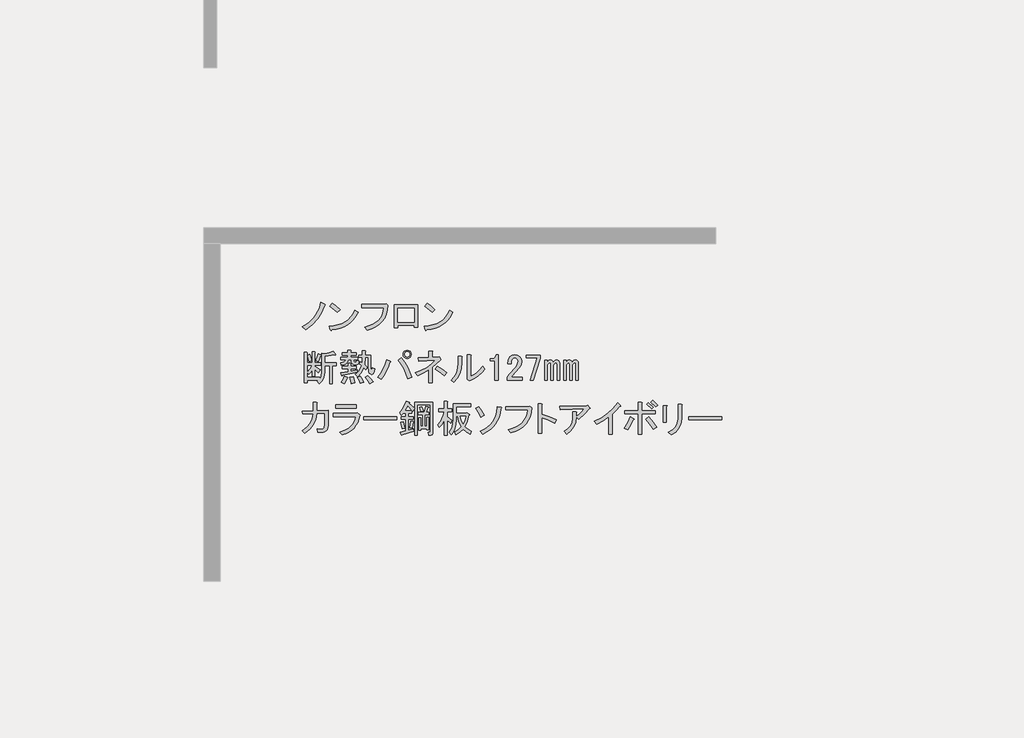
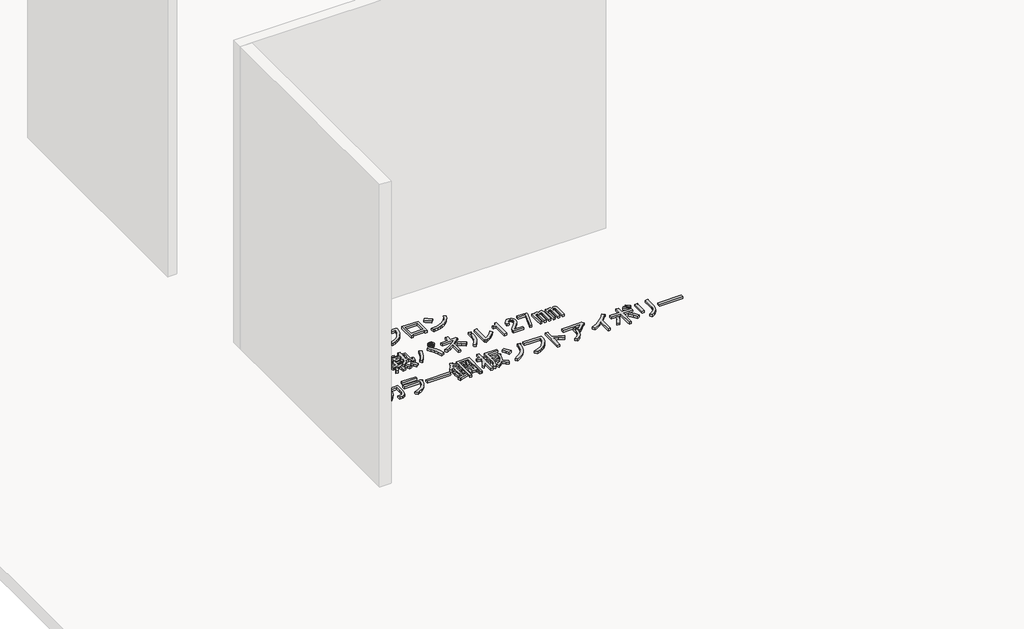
# One storey, part 14 of 117: 1 proxy.
"""IFC4 building model written with IfcOpenShell, lengths in millimetres."""

from ifc_helpers import new_model, si_unit, frame, origin, place, context, project, spatial, polyline, outline, extrude, element, save

model = new_model("IFC4")

# Units and contexts
model_context = context("Model", 3, world=origin())
ifc_project = project(units=[si_unit("LENGTHUNIT", "METRE", prefix="MILLI")], contexts=[model_context])

# Site, building, storey
site = spatial("IfcSite", under=ifc_project)
building = spatial("IfcBuilding", under=site)
storey = spatial("IfcBuildingStorey", under=building, Name="レベル 1", Elevation=500.0)

# Proxy
placement = place(None, origin())
element("IfcBuildingElementProxy", 1, Name="200㎜\u3000MS Pゴシック", ObjectType="200㎜\u3000MS Pゴシック", at=placement, inside=storey, context=model_context, shape_type="SweptSolid", body=[
    extrude(outline(polyline([(-23056.3293015, -8607.0496882), (-23081.9047498, -8666.8215225), (-23110.353844, -8712.7998566), (-23152.0217093, -8758.2034615), (-23201.1610538, -8795.560858), (-23228.7480543, -8773.7211493), (-23181.0455327, -8743.2605029), (-23141.3892195, -8704.7536481), (-23124.0036619, -8680.8305462), (-23108.6296565, -8652.7406577), (-23095.2672031, -8620.4839827), (-23083.9163019, -8584.0605212), (-23052.8809264, -8597.8540214), (-23049.7199159, -8602.4518548), (-23056.3293015, -8607.0496882)])), frame((0.0, 0.0, 500.0), z_axis=(0.0, 0.0, 1.0), x_axis=(1.0, 0.0, 0.0)), (0.0, 0.0, 1.0), 25.0),
    extrude(outline(polyline([(-22956.6022948, -8662.2236891), (-23015.2246708, -8615.0958967), (-22995.6838788, -8590.9572713), (-22968.3842429, -8610.7854279), (-22934.7625862, -8640.3839804), (-22956.6022948, -8662.2236891)])), frame((0.0, 0.0, 500.0), z_axis=(0.0, 0.0, 1.0), x_axis=(1.0, 0.0, 0.0)), (0.0, 0.0, 1.0), 25.0),
    extrude(outline(polyline([(-22794.5286672, -8662.2236891), (-22811.052131, -8691.965924), (-22830.1618761, -8717.9724192), (-22851.8579025, -8740.2431748), (-22876.1402102, -8758.7781907), (-22903.0087992, -8773.577467), (-22932.4636694, -8784.6410036), (-22964.504821, -8791.9688006), (-22999.1322539, -8795.560858), (-23004.8795456, -8803.6070664), (-23010.6268374, -8797.8597747), (-23019.8225042, -8767.9738575), (-22983.9917321, -8765.2977748), (-22951.2142088, -8758.9937141), (-22921.4899342, -8749.0616756), (-22894.8189084, -8735.5016591), (-22871.2011313, -8718.3136646), (-22850.636603, -8697.4976923), (-22833.1253234, -8673.053742), (-22818.6672926, -8644.9818138), (-22794.5286672, -8662.2236891)])), frame((0.0, 0.0, 500.0), z_axis=(0.0, 0.0, 1.0), x_axis=(1.0, 0.0, 0.0)), (0.0, 0.0, 1.0), 25.0),
    extrude(outline(polyline([(-22743.7685864, -8777.1695243), (-22709.985287, -8767.4889298), (-22680.4765359, -8755.1142922), (-22655.242333, -8740.0456116), (-22634.2826783, -8722.282888), (-22617.597572, -8701.8261214), (-22605.1870138, -8678.6753118), (-22597.0510039, -8652.8304591), (-22593.1895423, -8624.2915635), (-22765.6082951, -8624.2915635), (-22765.6082951, -8599.0034798), (-22590.8906256, -8599.0034798), (-22574.7982086, -8595.5551047), (-22562.1541668, -8607.0496882), (-22565.674383, -8643.5449909), (-22573.9361149, -8676.5919185), (-22586.9393625, -8706.1904711), (-22604.6841258, -8732.3406486), (-22627.1704048, -8755.042451), (-22654.3981995, -8774.2958784), (-22686.3675099, -8790.1009308), (-22723.078336, -8802.4576081), (-22743.7685864, -8777.1695243)])), frame((0.0, 0.0, 500.0), z_axis=(0.0, 0.0, 1.0), x_axis=(1.0, 0.0, 0.0)), (0.0, 0.0, 1.0), 25.0),
    extrude(outline(polyline([(-22329.044013, -8776.020066), (-22355.4815551, -8776.020066), (-22355.4815551, -8763.3760241), (-22483.0714321, -8763.3760241), (-22483.0714321, -8781.7673577), (-22509.5089742, -8781.7673577), (-22509.5089742, -8602.4518548), (-22329.044013, -8602.4518548), (-22329.044013, -8776.020066)]), holes=[polyline([(-22483.0714321, -8627.7399386), (-22483.0714321, -8738.0879404), (-22355.4815551, -8738.0879404), (-22355.4815551, -8627.7399386), (-22483.0714321, -8627.7399386)])]), frame((0.0, 0.0, 500.0), z_axis=(0.0, 0.0, 1.0), x_axis=(1.0, 0.0, 0.0)), (0.0, 0.0, 1.0), 25.0),
    extrude(outline(polyline([(-22052.9900951, -8662.2236891), (-22069.5135589, -8691.965924), (-22088.623304, -8717.9724192), (-22110.3193304, -8740.2431748), (-22134.6016381, -8758.7781907), (-22161.4702271, -8773.577467), (-22190.9250974, -8784.6410036), (-22222.9662489, -8791.9688006), (-22257.5936818, -8795.560858), (-22263.3409736, -8803.6070664), (-22269.0882653, -8797.8597747), (-22278.2839321, -8767.9738575), (-22242.4531601, -8765.2977748), (-22209.6756367, -8758.9937141), (-22179.9513622, -8749.0616756), (-22153.2803363, -8735.5016591), (-22129.6625593, -8718.3136646), (-22109.0980309, -8697.4976923), (-22091.5867514, -8673.053742), (-22077.1287205, -8644.9818138), (-22052.9900951, -8662.2236891)])), frame((0.0, 0.0, 500.0), z_axis=(0.0, 0.0, 1.0), x_axis=(1.0, 0.0, 0.0)), (0.0, 0.0, 1.0), 25.0),
    extrude(outline(polyline([(-22215.0637228, -8662.2236891), (-22273.6860987, -8615.0958967), (-22254.1453067, -8590.9572713), (-22226.8456709, -8610.7854279), (-22193.2240141, -8640.3839804), (-22215.0637228, -8662.2236891)])), frame((0.0, 0.0, 500.0), z_axis=(0.0, 0.0, 1.0), x_axis=(1.0, 0.0, 0.0)), (0.0, 0.0, 1.0), 25.0),
    extrude(outline(polyline([(-23122.9978859, -9039.2345221), (-23105.7560106, -8986.3594379), (-23085.0657603, -8992.1067296), (-23083.3415727, -8995.2677401), (-23087.364677, -8997.8540214), (-23104.6065523, -9046.1312722), (-23122.9978859, -9039.2345221)])), frame((0.0, 0.0, 500.0), z_axis=(0.0, 0.0, 1.0), x_axis=(1.0, 0.0, 0.0)), (0.0, 0.0, 1.0), 25.0),
    extrude(outline(polyline([(-22968.9704667, -8990.9572713), (-22970.6946542, -8995.5551047), (-22978.1661335, -8993.256188), (-23055.1798431, -9005.9002299), (-23055.1798431, -9055.326939), (-22963.2231749, -9055.326939), (-22963.2231749, -9077.1666477), (-22994.2585505, -9077.1666477), (-22994.2585505, -9217.4005666), (-23017.2477175, -9217.4005666), (-23017.2477175, -9077.1666477), (-23055.1798431, -9077.1666477), (-23055.1798431, -9126.5933568), (-23057.7661244, -9154.3958807), (-23065.5249683, -9179.1810764), (-23078.4563747, -9200.948944), (-23096.5603438, -9219.6994833), (-23113.8022191, -9200.1586914), (-23103.4570939, -9190.9630245), (-23193.1148454, -9190.9630245), (-23193.1148454, -9212.8027332), (-23216.1040124, -9212.8027332), (-23216.1040124, -8973.715396), (-23194.2643037, -8973.715396), (-23189.3791057, -8976.0143127), (-23193.1148454, -8980.6121461), (-23193.1148454, -9056.4763974), (-23150.5848863, -9056.4763974), (-23150.5848863, -8969.1175626), (-23132.1935527, -8969.1175626), (-23127.3083547, -8971.4164793), (-23131.0440943, -8976.0143127), (-23131.0440943, -9056.4763974), (-23087.364677, -9056.4763974), (-23087.364677, -9074.867731), (-23131.0440943, -9074.867731), (-23131.0440943, -9084.0633978), (-23090.813052, -9110.5009399), (-23104.6065523, -9132.3406486), (-23131.0440943, -9105.9031065), (-23131.0440943, -9158.7781907), (-23150.5848863, -9158.7781907), (-23150.5848863, -9110.5009399), (-23163.8036574, -9130.3290965), (-23178.1718868, -9146.1341488), (-23190.8159287, -9127.7428152), (-23168.97622, -9103.6041898), (-23151.7343447, -9074.867731), (-23193.1148454, -9074.867731), (-23193.1148454, -9169.1233159), (-23095.4108854, -9169.1233159), (-23095.4108854, -9182.9168161), (-23082.479479, -9158.7781907), (-23078.1690102, -9125.4438985), (-23078.1690102, -8980.6121461), (-23056.3293015, -8986.3594379), (-23020.1213634, -8978.8879586), (-22989.660717, -8965.6691875), (-22968.9704667, -8990.9572713)])), frame((0.0, 0.0, 500.0), z_axis=(0.0, 0.0, 1.0), x_axis=(1.0, 0.0, 0.0)), (0.0, 0.0, 1.0), 25.0),
    extrude(outline(polyline([(-23177.0224284, -9047.2807305), (-23189.6664703, -8996.7045631), (-23170.1256783, -8989.8078129), (-23162.3668344, -9013.9464383), (-23157.4816364, -9040.3839804), (-23177.0224284, -9047.2807305)])), frame((0.0, 0.0, 500.0), z_axis=(0.0, 0.0, 1.0), x_axis=(1.0, 0.0, 0.0)), (0.0, 0.0, 1.0), 25.0),
    extrude(outline(polyline([(-22878.1632569, -9167.9738575), (-22874.7148818, -9172.8590555), (-22880.4621736, -9176.020066), (-22890.2325696, -9201.5955143), (-22901.1524239, -9220.8489417), (-22924.141591, -9209.3543582), (-22911.4975491, -9185.790462), (-22901.1524239, -9158.7781907), (-22878.1632569, -9167.9738575)])), frame((0.0, 0.0, 500.0), z_axis=(0.0, 0.0, 1.0), x_axis=(1.0, 0.0, 0.0)), (0.0, 0.0, 1.0), 25.0),
    extrude(outline(polyline([(-22833.3343812, -9163.3760241), (-22823.2766206, -9190.67566), (-22818.3914226, -9212.8027332), (-22847.1278814, -9218.550025), (-22849.7141627, -9196.9976809), (-22857.4730066, -9166.8243992), (-22833.3343812, -9163.3760241)])), frame((0.0, 0.0, 500.0), z_axis=(0.0, 0.0, 1.0), x_axis=(1.0, 0.0, 0.0)), (0.0, 0.0, 1.0), 25.0),
    extrude(outline(polyline([(-22718.388546, -9157.6287323), (-22693.6751914, -9178.8937119), (-22674.7091286, -9203.6070664), (-22701.1466707, -9218.550025), (-22720.4000981, -9188.9514724), (-22739.0787963, -9169.1233159), (-22718.388546, -9157.6287323)])), frame((0.0, 0.0, 500.0), z_axis=(0.0, 0.0, 1.0), x_axis=(1.0, 0.0, 0.0)), (0.0, 0.0, 1.0), 25.0),
    extrude(outline(polyline([(-22777.0109219, -9216.2511083), (-22785.344495, -9191.5377537), (-22798.8506306, -9170.2727742), (-22778.1603803, -9162.2265657), (-22761.2058696, -9183.7789098), (-22749.4239215, -9207.0554415), (-22777.0109219, -9216.2511083)])), frame((0.0, 0.0, 500.0), z_axis=(0.0, 0.0, 1.0), x_axis=(1.0, 0.0, 0.0)), (0.0, 0.0, 1.0), 25.0),
    extrude(outline(polyline([(-22916.0953825, -9153.0308989), (-22918.1069346, -9157.9160969), (-22921.8426743, -9156.479274), (-22927.589966, -9132.3406486), (-22872.4159651, -9124.2944401), (-22872.4159651, -9101.3052731), (-22916.0953825, -9101.3052731), (-22916.0953825, -9082.9139395), (-22872.4159651, -9082.9139395), (-22872.4159651, -9059.9247724), (-22854.0246315, -9059.9247724), (-22849.1394335, -9062.2236891), (-22852.8751732, -9066.8215225), (-22852.8751732, -9082.9139395), (-22808.0462974, -9082.9139395), (-22808.0462974, -9101.3052731), (-22852.8751732, -9101.3052731), (-22852.8751732, -9120.8460651), (-22802.2990057, -9111.6503983), (-22802.2990057, -9127.7428152), (-22916.0953825, -9153.0308989)])), frame((0.0, 0.0, 500.0), z_axis=(0.0, 0.0, 1.0), x_axis=(1.0, 0.0, 0.0)), (0.0, 0.0, 1.0), 25.0),
    extrude(outline(polyline([(-22845.978423, -9031.1883136), (-22871.2665068, -9031.1883136), (-22875.8643402, -9048.6457123), (-22886.2094654, -9061.9363245), (-22902.3018823, -9071.0601502), (-22924.141591, -9076.0171893), (-22928.7394244, -9056.4763974), (-22903.4513406, -9047.8554597), (-22895.9798614, -9040.5276627), (-22891.9567571, -9031.1883136), (-22927.589966, -9031.1883136), (-22927.589966, -9012.79698), (-22873.5654235, -9012.79698), (-22873.5654235, -8995.5551047), (-22917.2448409, -8995.5551047), (-22917.2448409, -8977.1637711), (-22873.5654235, -8977.1637711), (-22873.5654235, -8958.7724374), (-22851.7257148, -8958.7724374), (-22846.8405168, -8961.0713541), (-22850.5762564, -8965.6691875), (-22850.5762564, -8977.1637711), (-22808.0462974, -8977.1637711), (-22808.0462974, -8995.5551047), (-22850.5762564, -8995.5551047), (-22850.5762564, -9012.79698), (-22797.7011723, -9012.79698), (-22797.7011723, -9031.1883136), (-22826.4376311, -9031.1883136), (-22826.4376311, -9043.8323555), (-22825.0008081, -9049.0049181), (-22820.6903393, -9050.7291056), (-22810.3452141, -9050.7291056), (-22806.6094745, -9047.5680951), (-22806.8968391, -9038.0850637), (-22787.3560471, -9040.3839804), (-22790.229693, -9061.9363245), (-22795.5459378, -9067.3244106), (-22803.448464, -9069.1204392), (-22827.5870894, -9069.1204392), (-22841.3805896, -9064.2352412), (-22845.978423, -9049.5796472), (-22845.978423, -9031.1883136)])), frame((0.0, 0.0, 500.0), z_axis=(0.0, 0.0, 1.0), x_axis=(1.0, 0.0, 0.0)), (0.0, 0.0, 1.0), 25.0),
    extrude(outline(polyline([(-22714.9401709, -9013.9464383), (-22736.7798796, -9013.9464383), (-22741.377713, -9071.4193559), (-22721.836921, -9089.8106896), (-22732.1820462, -9111.6503983), (-22748.2744631, -9095.5579813), (-22767.5278905, -9133.2027424), (-22797.7011723, -9165.6749408), (-22814.9430475, -9144.9846905), (-22799.8564067, -9133.0590601), (-22786.7813179, -9117.9724192), (-22775.7177813, -9099.7247679), (-22766.6657967, -9078.316106), (-22783.907672, -9063.3731475), (-22775.8614636, -9046.1312722), (-22762.0679633, -9056.4763974), (-22759.7690466, -9013.9464383), (-22787.3560471, -9013.9464383), (-22787.3560471, -8995.5551047), (-22759.7690466, -8995.5551047), (-22759.7690466, -8961.0713541), (-22737.9293379, -8961.0713541), (-22733.04414, -8963.3702708), (-22736.7798796, -8967.9681043), (-22736.7798796, -8995.5551047), (-22695.3993789, -8995.5551047), (-22695.3993789, -9092.1096063), (-22691.9510039, -9116.2482317), (-22688.7181523, -9118.2597838), (-22685.9163475, -9115.0987733), (-22681.6058787, -9093.2590646), (-22662.0650867, -9100.1558147), (-22666.591079, -9126.9525626), (-22674.421764, -9142.9731384), (-22685.5571418, -9148.2175421), (-22699.9972123, -9142.6857738), (-22706.5347567, -9135.3579768), (-22711.2044313, -9123.719711), (-22714.9401709, -9087.5117729), (-22714.9401709, -9013.9464383)])), frame((0.0, 0.0, 500.0), z_axis=(0.0, 0.0, 1.0), x_axis=(1.0, 0.0, 0.0)), (0.0, 0.0, 1.0), 25.0),
    extrude(outline(polyline([(-22456.3120417, -9016.245355), (-22429.6589762, -9052.9561812), (-22407.1726971, -9090.6727833), (-22388.8532047, -9129.3951616), (-22374.7004987, -9169.1233159), (-22405.7358742, -9179.468441), (-22421.1817208, -9136.3637528), (-22438.7828018, -9097.856898), (-22458.5391173, -9063.9478766), (-22480.4506671, -9034.6366887), (-22456.3120417, -9016.245355)])), frame((0.0, 0.0, 500.0), z_axis=(0.0, 0.0, 1.0), x_axis=(1.0, 0.0, 0.0)), (0.0, 0.0, 1.0), 25.0),
    extrude(outline(polyline([(-22543.6708765, -9042.6828971), (-22539.6477722, -9048.1428243), (-22545.9697932, -9053.0280223), (-22557.8954236, -9088.4457078), (-22572.9820644, -9122.282888), (-22591.2297158, -9154.539563), (-22612.6383776, -9185.2157328), (-22639.0759197, -9167.9738575), (-22615.8712292, -9136.5074351), (-22596.8333252, -9103.0294606), (-22581.9622078, -9067.539934), (-22571.2578769, -9030.0388553), (-22543.6708765, -9042.6828971)])), frame((0.0, 0.0, 500.0), z_axis=(0.0, 0.0, 1.0), x_axis=(1.0, 0.0, 0.0)), (0.0, 0.0, 1.0), 25.0),
    extrude(outline(polyline([(-22410.3337076, -9021.9926468), (-22422.9777495, -9019.6937301), (-22433.3228747, -9012.79698), (-22440.2196248, -9002.4518548), (-22442.5185415, -8989.8078129), (-22440.2196248, -8977.1637711), (-22433.3228747, -8966.8186459), (-22422.9777495, -8959.9218958), (-22410.3337076, -8957.6229791), (-22397.6896657, -8959.9218958), (-22387.3445406, -8966.8186459), (-22380.4477905, -8977.1637711), (-22378.1488738, -8989.8078129), (-22380.4477905, -9002.4518548), (-22387.3445406, -9012.79698), (-22397.6896657, -9019.6937301), (-22410.3337076, -9021.9926468)]), holes=[polyline([(-22410.3337076, -9010.4980633), (-22402.0001346, -9009.0612403), (-22395.390749, -9004.7507715), (-22391.0802802, -8998.141386), (-22389.6434573, -8989.8078129), (-22391.0802802, -8981.4742399), (-22395.390749, -8974.8648544), (-22402.0001346, -8970.5543855), (-22410.3337076, -8969.1175626), (-22418.6672807, -8970.5543855), (-22425.2766662, -8974.8648544), (-22429.587135, -8981.4742399), (-22431.023958, -8989.8078129), (-22429.587135, -8998.141386), (-22425.2766662, -9004.7507715), (-22418.6672807, -9009.0612403), (-22410.3337076, -9010.4980633)])]), frame((0.0, 0.0, 500.0), z_axis=(0.0, 0.0, 1.0), x_axis=(1.0, 0.0, 0.0)), (0.0, 0.0, 1.0), 25.0),
    extrude(outline(polyline([(-22120.6702029, -9155.3298156), (-22157.7402348, -9126.0186277), (-22190.7871624, -9104.7536481), (-22173.5452871, -9082.9139395), (-22134.7510677, -9106.1904711), (-22101.1294109, -9132.3406486), (-22120.6702029, -9155.3298156)])), frame((0.0, 0.0, 500.0), z_axis=(0.0, 0.0, 1.0), x_axis=(1.0, 0.0, 0.0)), (0.0, 0.0, 1.0), 25.0),
    extrude(outline(polyline([(-22166.648537, -9011.6475216), (-22159.7517869, -9009.3486049), (-22147.107745, -9026.5904802), (-22145.9582866, -9032.6251366), (-22151.7055784, -9034.6366887), (-22214.9257878, -9090.9601479), (-22214.9257878, -9211.6532749), (-22241.3633299, -9211.6532749), (-22241.3633299, -9109.3514816), (-22281.5943722, -9133.4901069), (-22326.4232479, -9155.3298156), (-22345.9640399, -9134.6395653), (-22300.4167527, -9115.1706145), (-22259.1799343, -9092.3969709), (-22222.2535848, -9066.3186345), (-22189.637704, -9036.9356054), (-22319.5264978, -9042.6828971), (-22322.9748729, -9017.3948134), (-22241.3633299, -9015.0958967), (-22241.3633299, -8963.3702708), (-22218.3741628, -8963.3702708), (-22212.3395065, -8966.8186459), (-22214.9257878, -8972.5659377), (-22214.9257878, -9013.9464383), (-22166.648537, -9011.6475216)])), frame((0.0, 0.0, 500.0), z_axis=(0.0, 0.0, 1.0), x_axis=(1.0, 0.0, 0.0)), (0.0, 0.0, 1.0), 25.0),
    extrude(outline(polyline([(-22067.703162, -9193.2619413), (-22042.5587606, -9164.0225944), (-22024.5984738, -9131.4785548), (-22013.8223018, -9095.6298225), (-22010.2302444, -9056.4763974), (-22010.2302444, -9004.7507715), (-21986.091619, -9004.7507715), (-21980.3443273, -9008.1991466), (-21983.7927023, -9013.9464383), (-21983.7927023, -9055.326939), (-21987.6002831, -9101.0897496), (-21999.0230255, -9141.82368), (-22018.0609295, -9177.5287301), (-22044.713995, -9208.2048998), (-22067.703162, -9193.2619413)])), frame((0.0, 0.0, 500.0), z_axis=(0.0, 0.0, 1.0), x_axis=(1.0, 0.0, 0.0)), (0.0, 0.0, 1.0), 25.0),
    extrude(outline(polyline([(-21913.6757429, -9162.2265657), (-21888.8905471, -9150.0135708), (-21865.1111275, -9132.9153778), (-21842.3374839, -9110.9319868), (-21820.5696163, -9084.0633978), (-21804.4771994, -9105.9031065), (-21827.753731, -9133.7056304), (-21853.9039086, -9157.3413678), (-21882.9277319, -9176.8103186), (-21914.8252012, -9192.1124829), (-21924.020868, -9196.7103163), (-21942.4122017, -9182.9168161), (-21940.113285, -9177.1695243), (-21940.113285, -8992.1067296), (-21915.9746596, -8992.1067296), (-21910.2273678, -8995.5551047), (-21913.6757429, -9001.3023965), (-21913.6757429, -9162.2265657)])), frame((0.0, 0.0, 500.0), z_axis=(0.0, 0.0, 1.0), x_axis=(1.0, 0.0, 0.0)), (0.0, 0.0, 1.0), 25.0),
    extrude(outline(polyline([(-21725.1645731, -9015.0958967), (-21717.1183647, -9004.1760423), (-21713.6699896, -8992.1067296), (-21699.8764894, -8992.1067296), (-21699.8764894, -9190.9630245), (-21726.3140315, -9190.9630245), (-21726.3140315, -9038.0850637), (-21760.797782, -9038.0850637), (-21760.797782, -9024.2915635), (-21750.4526569, -9024.2915635), (-21736.0844275, -9021.9926468), (-21725.1645731, -9015.0958967)])), frame((0.0, 0.0, 500.0), z_axis=(0.0, 0.0, 1.0), x_axis=(1.0, 0.0, 0.0)), (0.0, 0.0, 1.0), 25.0),
    extrude(outline(polyline([(-21625.1616965, -9062.2236891), (-21620.5638631, -9030.900949), (-21606.7703629, -9008.1991466), (-21590.3905814, -8996.9919276), (-21571.137154, -8993.256188), (-21548.4353515, -8996.9919276), (-21530.9061116, -9008.1991466), (-21519.6988927, -9024.8662927), (-21515.9631531, -9044.9818138), (-21520.2736219, -9070.8446268), (-21533.2050283, -9093.2590646), (-21566.5393205, -9131.1911902), (-21584.9306542, -9151.8814406), (-21598.7241544, -9170.2727742), (-21512.514778, -9170.2727742), (-21512.514778, -9192.1124829), (-21629.7595299, -9192.1124829), (-21629.7595299, -9172.5716909), (-21623.7248736, -9158.7781907), (-21610.2187379, -9140.3868571), (-21563.0909455, -9088.6612312), (-21548.4353515, -9067.3962517), (-21543.5501535, -9044.9818138), (-21545.8490702, -9032.337772), (-21552.7458203, -9021.9926468), (-21560.5046642, -9016.8200842), (-21569.9876956, -9015.0958967), (-21578.6086332, -9016.8200842), (-21586.0801125, -9021.9926468), (-21595.5631439, -9038.3724283), (-21598.7241544, -9062.2236891), (-21625.1616965, -9062.2236891)])), frame((0.0, 0.0, 500.0), z_axis=(0.0, 0.0, 1.0), x_axis=(1.0, 0.0, 0.0)), (0.0, 0.0, 1.0), 25.0),
    extrude(outline(polyline([(-21478.0310274, -8995.5551047), (-21368.832484, -8995.5551047), (-21368.832484, -9020.8431884), (-21424.0064849, -9192.1124829), (-21449.2945686, -9192.1124829), (-21394.1205677, -9017.3948134), (-21478.0310274, -9017.3948134), (-21478.0310274, -8995.5551047)])), frame((0.0, 0.0, 500.0), z_axis=(0.0, 0.0, 1.0), x_axis=(1.0, 0.0, 0.0)), (0.0, 0.0, 1.0), 25.0),
    extrude(outline(polyline([(-21315.9573998, -9193.2619413), (-21335.4981918, -9193.2619413), (-21335.4981918, -9035.786147), (-21315.9573998, -9035.786147), (-21315.9573998, -9053.0280223), (-21303.8880871, -9037.5103346), (-21290.6693161, -9032.337772), (-21281.4736492, -9033.7745949), (-21274.5768991, -9038.0850637), (-21267.680149, -9051.878564), (-21254.7487426, -9037.22297), (-21241.2426069, -9032.337772), (-21232.9090339, -9033.7745949), (-21226.2996483, -9038.0850637), (-21221.1270858, -9046.7060014), (-21219.4028982, -9058.7753141), (-21219.4028982, -9193.2619413), (-21238.9436902, -9193.2619413), (-21238.9436902, -9069.1204392), (-21241.5299715, -9059.6374078), (-21249.2888154, -9056.4763974), (-21259.6339406, -9061.0742308), (-21265.6685969, -9069.6951684), (-21267.680149, -9079.4655644), (-21267.680149, -9193.2619413), (-21287.220941, -9193.2619413), (-21287.220941, -9069.1204392), (-21289.8072223, -9059.6374078), (-21297.5660662, -9056.4763974), (-21307.9111913, -9061.0742308), (-21313.9458477, -9069.6951684), (-21315.9573998, -9079.4655644), (-21315.9573998, -9193.2619413)])), frame((0.0, 0.0, 500.0), z_axis=(0.0, 0.0, 1.0), x_axis=(1.0, 0.0, 0.0)), (0.0, 0.0, 1.0), 25.0),
    extrude(outline(polyline([(-21094.1119379, -9032.337772), (-21085.7783648, -9033.7745949), (-21079.1689793, -9038.0850637), (-21073.9964167, -9046.7060014), (-21072.2722292, -9058.7753141), (-21072.2722292, -9193.2619413), (-21091.8130212, -9193.2619413), (-21091.8130212, -9069.1204392), (-21094.3993024, -9059.6374078), (-21102.1581463, -9056.4763974), (-21112.5032715, -9061.0742308), (-21118.5379278, -9069.6951684), (-21120.54948, -9079.4655644), (-21120.54948, -9193.2619413), (-21140.0902719, -9193.2619413), (-21140.0902719, -9069.1204392), (-21142.6765532, -9059.6374078), (-21150.4353971, -9056.4763974), (-21160.7805223, -9061.0742308), (-21166.8151786, -9069.6951684), (-21168.8267307, -9079.4655644), (-21168.8267307, -9193.2619413), (-21188.3675227, -9193.2619413), (-21188.3675227, -9035.786147), (-21168.8267307, -9035.786147), (-21168.8267307, -9053.0280223), (-21156.757418, -9037.5103346), (-21143.538647, -9032.337772), (-21134.3429802, -9033.7745949), (-21127.4462301, -9038.0850637), (-21120.54948, -9051.878564), (-21107.6180735, -9037.22297), (-21094.1119379, -9032.337772)])), frame((0.0, 0.0, 500.0), z_axis=(0.0, 0.0, 1.0), x_axis=(1.0, 0.0, 0.0)), (0.0, 0.0, 1.0), 25.0),
    extrude(outline(polyline([(-23052.8809264, -9450.7291056), (-23118.4000525, -9453.0280223), (-23126.6617844, -9499.293721), (-23144.55023, -9540.3868571), (-23172.0653893, -9576.3074306), (-23209.2072623, -9607.0554415), (-23228.7480543, -9587.5146495), (-23193.7614157, -9559.2810787), (-23168.1141262, -9527.4554506), (-23151.8061858, -9492.0377651), (-23144.8375946, -9453.0280223), (-23226.4491376, -9455.326939), (-23228.7480543, -9432.337772), (-23143.6881362, -9430.0388553), (-23143.6881362, -9365.6691875), (-23119.5495108, -9365.6691875), (-23112.6527607, -9369.1175626), (-23117.2505941, -9374.8648544), (-23117.2505941, -9430.0388553), (-23026.4433843, -9426.5904802), (-23026.4433843, -9497.856898), (-23029.0296656, -9545.8467842), (-23036.7885095, -9577.1695243), (-23043.397895, -9587.2272849), (-23052.8809264, -9594.4113996), (-23065.2376037, -9598.7218684), (-23080.4679269, -9600.1586914), (-23108.0549273, -9600.1586914), (-23111.5033024, -9571.4222326), (-23081.6173852, -9573.7211493), (-23067.5365204, -9570.8475034), (-23059.7776765, -9562.2265657), (-23054.6051139, -9536.938482), (-23052.8809264, -9497.856898), (-23052.8809264, -9450.7291056)])), frame((0.0, 0.0, 500.0), z_axis=(0.0, 0.0, 1.0), x_axis=(1.0, 0.0, 0.0)), (0.0, 0.0, 1.0), 25.0),
    extrude(outline(polyline([(-22938.0270479, -9596.7103163), (-22888.3848153, -9578.3908238), (-22868.1435721, -9566.2676303), (-22850.9555777, -9552.1688052), (-22836.820832, -9536.0943485), (-22825.7393351, -9518.0442603), (-22817.7110869, -9498.0185406), (-22812.7360875, -9476.0171893), (-22987.453757, -9476.0171893), (-22987.453757, -9450.7291056), (-22811.5866291, -9450.7291056), (-22801.241504, -9447.2807305), (-22780.5512536, -9459.9247724), (-22777.6776078, -9465.3846996), (-22782.8501703, -9470.2698976), (-22788.9746281, -9497.7491363), (-22798.1523347, -9522.7139349), (-22810.3832899, -9545.1642933), (-22825.667494, -9565.1002116), (-22844.0049467, -9582.5216898), (-22865.3956483, -9597.4287278), (-22889.8395985, -9609.8213256), (-22917.3367975, -9619.6994833), (-22938.0270479, -9596.7103163)])), frame((0.0, 0.0, 500.0), z_axis=(0.0, 0.0, 1.0), x_axis=(1.0, 0.0, 0.0)), (0.0, 0.0, 1.0), 25.0),
    extrude(outline(polyline([(-22808.1382541, -9410.4980633), (-22966.7635067, -9410.4980633), (-22966.7635067, -9385.2099795), (-22808.1382541, -9385.2099795), (-22808.1382541, -9410.4980633)])), frame((0.0, 0.0, 500.0), z_axis=(0.0, 0.0, 1.0), x_axis=(1.0, 0.0, 0.0)), (0.0, 0.0, 1.0), 25.0),
    extrude(outline(polyline([(-22749.1020731, -9501.3052731), (-22749.1020731, -9476.0171893), (-22492.7728606, -9476.0171893), (-22492.7728606, -9501.3052731), (-22749.1020731, -9501.3052731)])), frame((0.0, 0.0, 500.0), z_axis=(0.0, 0.0, 1.0), x_axis=(1.0, 0.0, 0.0)), (0.0, 0.0, 1.0), 25.0),
    extrude(outline(polyline([(-22362.0104785, -9513.949315), (-22359.4241972, -9517.1103254), (-22363.1599368, -9519.6966067), (-22371.2061453, -9566.8243992), (-22389.5974789, -9564.5254825), (-22383.8501872, -9510.5009399), (-22362.0104785, -9513.949315)])), frame((0.0, 0.0, 500.0), z_axis=(0.0, 0.0, 1.0), x_axis=(1.0, 0.0, 0.0)), (0.0, 0.0, 1.0), 25.0),
    extrude(outline(polyline([(-22439.0241881, -9515.0987733), (-22427.5296046, -9566.8243992), (-22448.2198549, -9572.5716909), (-22459.7144384, -9520.8460651), (-22439.0241881, -9515.0987733)])), frame((0.0, 0.0, 500.0), z_axis=(0.0, 0.0, 1.0), x_axis=(1.0, 0.0, 0.0)), (0.0, 0.0, 1.0), 25.0),
    extrude(outline(polyline([(-22365.4588536, -9434.6366887), (-22406.8393542, -9390.9572713), (-22428.6790629, -9430.0388553), (-22373.505062, -9430.0388553), (-22373.505062, -9448.4301889), (-22399.9426041, -9448.4301889), (-22399.9426041, -9477.1666477), (-22362.0104785, -9477.1666477), (-22362.0104785, -9495.5579813), (-22399.9426041, -9495.5579813), (-22399.9426041, -9582.9168161), (-22360.8610201, -9572.5716909), (-22358.5621034, -9592.1124829), (-22450.5187716, -9617.4005666), (-22452.8176883, -9623.1478584), (-22457.4155217, -9619.6994833), (-22464.3122718, -9596.7103163), (-22419.4833961, -9587.5146495), (-22419.4833961, -9495.5579813), (-22457.4155217, -9495.5579813), (-22457.4155217, -9477.1666477), (-22419.4833961, -9477.1666477), (-22419.4833961, -9448.4301889), (-22441.3231048, -9448.4301889), (-22456.2660634, -9466.8215225), (-22468.9101052, -9446.1312722), (-22440.7483756, -9408.4865112), (-22416.035021, -9357.6229791), (-22394.1953124, -9363.3702708), (-22390.7469373, -9367.1060105), (-22396.4942291, -9369.1175626), (-22397.6436874, -9372.5659377), (-22352.8148117, -9410.4980633), (-22365.4588536, -9434.6366887)])), frame((0.0, 0.0, 500.0), z_axis=(0.0, 0.0, 1.0), x_axis=(1.0, 0.0, 0.0)), (0.0, 0.0, 1.0), 25.0),
    extrude(outline(polyline([(-22297.6408108, -9397.8540214), (-22290.4566961, -9413.0843446), (-22284.9967689, -9433.4872303), (-22302.2386442, -9439.2345221), (-22313.7332277, -9402.4518548), (-22297.6408108, -9397.8540214)])), frame((0.0, 0.0, 500.0), z_axis=(0.0, 0.0, 1.0), x_axis=(1.0, 0.0, 0.0)), (0.0, 0.0, 1.0), 25.0),
    extrude(outline(polyline([(-22244.7657266, -9399.0034798), (-22242.1794453, -9402.4518548), (-22248.2141016, -9405.9002299), (-22260.8581435, -9443.8323555), (-22240.1678932, -9443.8323555), (-22240.1678932, -9462.2236891), (-22271.2032687, -9462.2236891), (-22271.2032687, -9550.7319822), (-22256.2603101, -9550.7319822), (-22256.2603101, -9482.9139395), (-22240.1678932, -9482.9139395), (-22240.1678932, -9577.1695243), (-22256.2603101, -9577.1695243), (-22256.2603101, -9569.1233159), (-22302.2386442, -9569.1233159), (-22302.2386442, -9581.7673577), (-22318.3310611, -9581.7673577), (-22318.3310611, -9485.2128562), (-22302.2386442, -9485.2128562), (-22302.2386442, -9550.7319822), (-22287.2956856, -9550.7319822), (-22287.2956856, -9462.2236891), (-22322.9288945, -9462.2236891), (-22322.9288945, -9443.8323555), (-22276.9505604, -9443.8323555), (-22266.6054353, -9394.4056463), (-22244.7657266, -9399.0034798)])), frame((0.0, 0.0, 500.0), z_axis=(0.0, 0.0, 1.0), x_axis=(1.0, 0.0, 0.0)), (0.0, 0.0, 1.0), 25.0),
    extrude(outline(polyline([(-22350.515895, -9365.6691875), (-22210.281976, -9365.6691875), (-22210.281976, -9605.9059831), (-22214.0177157, -9617.1132021), (-22225.2249346, -9620.8489417), (-22241.3173515, -9620.8489417), (-22245.9151849, -9599.009233), (-22234.4206014, -9599.009233), (-22230.9722264, -9597.8597747), (-22229.822768, -9594.4113996), (-22229.822768, -9384.0605212), (-22330.975103, -9384.0605212), (-22330.975103, -9623.1478584), (-22350.515895, -9623.1478584), (-22350.515895, -9365.6691875)])), frame((0.0, 0.0, 500.0), z_axis=(0.0, 0.0, 1.0), x_axis=(1.0, 0.0, 0.0)), (0.0, 0.0, 1.0), 25.0),
    extrude(outline(polyline([(-22039.0126816, -9594.4113996), (-22010.2762228, -9577.1695243), (-21988.4365141, -9555.3298156), (-22006.2531185, -9513.3745858), (-22016.0235145, -9472.5688143), (-22028.6675564, -9472.5688143), (-22028.6675564, -9496.7074397), (-22031.1101554, -9538.4471461), (-22038.4379524, -9572.8590555), (-22050.6509474, -9599.9431679), (-22067.7491404, -9619.6994833), (-22081.5426406, -9596.7103163), (-22068.4675518, -9579.3247587), (-22059.1282027, -9557.0540032), (-22053.5245933, -9529.8980496), (-22051.6567234, -9497.856898), (-22051.6567234, -9377.1637711), (-21914.8711796, -9377.1637711), (-21914.8711796, -9399.0034798), (-22028.6675564, -9399.0034798), (-22028.6675564, -9450.7291056), (-21949.3549301, -9450.7291056), (-21943.6076384, -9444.9818138), (-21924.0668464, -9458.7753141), (-21922.6300234, -9462.5110537), (-21927.5152214, -9466.8215225), (-21939.8718987, -9513.3745858), (-21958.5505969, -9554.1803573), (-21939.5845341, -9572.5716909), (-21907.9744294, -9590.9630245), (-21917.1700963, -9615.1016499), (-21945.0444613, -9599.009233), (-21973.4935555, -9573.7211493), (-21997.9195455, -9598.1471392), (-22029.8170148, -9618.550025), (-22039.0126816, -9594.4113996)]), holes=[polyline([(-21994.1838058, -9472.5688143), (-21986.1375974, -9505.6157419), (-21973.4935555, -9533.4901069), (-21960.8495136, -9507.3399294), (-21952.8033052, -9472.5688143), (-21994.1838058, -9472.5688143)])]), frame((0.0, 0.0, 500.0), z_axis=(0.0, 0.0, 1.0), x_axis=(1.0, 0.0, 0.0)), (0.0, 0.0, 1.0), 25.0),
    extrude(outline(polyline([(-22121.7736829, -9623.1478584), (-22121.7736829, -9503.6041898), (-22139.5902874, -9537.8005758), (-22158.5563502, -9559.927649), (-22170.0509337, -9539.2373987), (-22152.8090584, -9516.5355963), (-22139.0155582, -9492.1096063), (-22128.670433, -9465.9594288), (-22121.7736829, -9438.0850637), (-22163.1541836, -9438.0850637), (-22163.1541836, -9416.245355), (-22121.7736829, -9416.245355), (-22121.7736829, -9356.4735207), (-22099.9339742, -9356.4735207), (-22095.0487762, -9358.7724374), (-22098.7845159, -9363.3702708), (-22098.7845159, -9416.245355), (-22060.8523903, -9416.245355), (-22060.8523903, -9438.0850637), (-22098.7845159, -9438.0850637), (-22098.7845159, -9478.316106), (-22060.8523903, -9504.7536481), (-22071.1975154, -9527.7428152), (-22098.7845159, -9504.7536481), (-22098.7845159, -9623.1478584), (-22121.7736829, -9623.1478584)])), frame((0.0, 0.0, 500.0), z_axis=(0.0, 0.0, 1.0), x_axis=(1.0, 0.0, 0.0)), (0.0, 0.0, 1.0), 25.0),
    extrude(outline(polyline([(-21835.5585533, -9479.4655644), (-21855.961439, -9440.0966158), (-21875.7895956, -9411.6475216), (-21850.5015118, -9397.8540214), (-21830.3859907, -9426.5904802), (-21809.1210112, -9464.5226058), (-21835.5585533, -9479.4655644)])), frame((0.0, 0.0, 500.0), z_axis=(0.0, 0.0, 1.0), x_axis=(1.0, 0.0, 0.0)), (0.0, 0.0, 1.0), 25.0),
    extrude(outline(polyline([(-21741.3029684, -9517.39769), (-21729.1618145, -9496.5637574), (-21719.1758951, -9469.6951684), (-21711.3452101, -9436.7919231), (-21705.6697595, -9397.8540214), (-21676.9333007, -9402.4518548), (-21672.0481027, -9406.1875945), (-21678.082759, -9412.79698), (-21683.3271628, -9448.1428243), (-21692.1636238, -9480.6150228), (-21704.5921423, -9510.2135753), (-21720.6127181, -9536.938482), (-21736.705135, -9555.9045448), (-21758.5448437, -9574.8706076), (-21819.4661363, -9612.8027332), (-21840.1563867, -9592.1124829), (-21809.4083758, -9576.2355894), (-21782.6834691, -9558.4908261), (-21759.9816666, -9538.878193), (-21741.3029684, -9517.39769)])), frame((0.0, 0.0, 500.0), z_axis=(0.0, 0.0, 1.0), x_axis=(1.0, 0.0, 0.0)), (0.0, 0.0, 1.0), 25.0),
    extrude(outline(polyline([(-21619.6902747, -9577.1695243), (-21585.9069754, -9567.4889298), (-21556.3982242, -9555.1142922), (-21531.1640214, -9540.0456116), (-21510.2043667, -9522.282888), (-21493.5192603, -9501.8261214), (-21481.1087022, -9478.6753118), (-21472.9726923, -9452.8304591), (-21469.1112306, -9424.2915635), (-21641.5299834, -9424.2915635), (-21641.5299834, -9399.0034798), (-21466.8123139, -9399.0034798), (-21450.719897, -9395.5551047), (-21438.0758551, -9407.0496882), (-21441.5960713, -9443.5449909), (-21449.8578032, -9476.5919185), (-21462.8610508, -9506.1904711), (-21480.6058141, -9532.3406486), (-21503.0920932, -9555.042451), (-21530.3198879, -9574.2958784), (-21562.2891983, -9590.1009308), (-21599.0000244, -9602.4576081), (-21619.6902747, -9577.1695243)])), frame((0.0, 0.0, 500.0), z_axis=(0.0, 0.0, 1.0), x_axis=(1.0, 0.0, 0.0)), (0.0, 0.0, 1.0), 25.0),
    extrude(outline(polyline([(-21357.8436622, -9457.6258557), (-21301.2328383, -9476.5919185), (-21244.0472853, -9501.3052731), (-21257.8407855, -9527.7428152), (-21313.302151, -9501.8800023), (-21357.8436622, -9486.3623145), (-21357.8436622, -9605.9059831), (-21384.2812042, -9605.9059831), (-21384.2812042, -9376.0143127), (-21361.2920372, -9376.0143127), (-21353.5331933, -9378.8879586), (-21357.8436622, -9385.2099795), (-21357.8436622, -9457.6258557)])), frame((0.0, 0.0, 500.0), z_axis=(0.0, 0.0, 1.0), x_axis=(1.0, 0.0, 0.0)), (0.0, 0.0, 1.0), 25.0),
    extrude(outline(polyline([(-21089.5600828, -9478.316106), (-21093.3676636, -9519.5529244), (-21107.0893227, -9555.9045448), (-21130.72506, -9587.3709672), (-21164.2748757, -9613.9521916), (-21183.8156677, -9592.1124829), (-21154.1452739, -9571.8532794), (-21132.9521356, -9547.8583363), (-21120.2362526, -9520.1276536), (-21115.9976249, -9488.6612312), (-21115.9976249, -9439.2345221), (-21091.8589995, -9439.2345221), (-21086.1117077, -9441.8208034), (-21089.5600828, -9447.2807305), (-21089.5600828, -9477.1666477), (-21053.0647801, -9446.4186368), (-21026.3398734, -9416.245355), (-21213.7015848, -9423.1421052), (-21216.0005015, -9396.7045631), (-21006.7990814, -9390.9572713), (-20998.752873, -9388.6583546), (-20981.5109977, -9409.3486049), (-20981.2236331, -9412.5096154), (-20987.2582895, -9412.79698), (-21025.1904151, -9456.1890328), (-21070.0192908, -9496.7074397), (-21089.5600828, -9478.316106)])), frame((0.0, 0.0, 500.0), z_axis=(0.0, 0.0, 1.0), x_axis=(1.0, 0.0, 0.0)), (0.0, 0.0, 1.0), 25.0),
    extrude(outline(polyline([(-20947.7169221, -9511.6503983), (-20891.0342572, -9483.7760332), (-20841.6793892, -9450.7291056), (-20799.6523182, -9412.5096154), (-20764.9530442, -9369.1175626), (-20743.1133355, -9387.5088962), (-20740.5270542, -9393.5435526), (-20751.1595439, -9397.8540214), (-20776.1602631, -9426.8778448), (-20807.4830032, -9456.4763974), (-20807.4830032, -9612.8027332), (-20833.9205453, -9612.8027332), (-20833.9205453, -9478.316106), (-20877.5999627, -9507.9146586), (-20928.1761302, -9534.6395653), (-20947.7169221, -9511.6503983)])), frame((0.0, 0.0, 500.0), z_axis=(0.0, 0.0, 1.0), x_axis=(1.0, 0.0, 0.0)), (0.0, 0.0, 1.0), 25.0),
    extrude(outline(polyline([(-20639.7540405, -9492.1096063), (-20637.4551238, -9496.9948043), (-20644.3518739, -9500.1558147), (-20663.8926659, -9538.9500341), (-20688.0312912, -9579.468441), (-20713.319375, -9565.6749408), (-20686.8818329, -9523.1449818), (-20665.0421242, -9478.316106), (-20639.7540405, -9492.1096063)])), frame((0.0, 0.0, 500.0), z_axis=(0.0, 0.0, 1.0), x_axis=(1.0, 0.0, 0.0)), (0.0, 0.0, 1.0), 25.0),
    extrude(outline(polyline([(-20500.6695799, -9416.245355), (-20538.6017055, -9380.6121461), (-20524.8082053, -9366.8186459), (-20486.8760796, -9401.3023965), (-20500.6695799, -9416.245355)])), frame((0.0, 0.0, 500.0), z_axis=(0.0, 0.0, 1.0), x_axis=(1.0, 0.0, 0.0)), (0.0, 0.0, 1.0), 25.0),
    extrude(outline(polyline([(-20468.484746, -9400.1529381), (-20506.4168716, -9362.2208125), (-20491.473913, -9349.5767706), (-20453.5417874, -9386.3594379), (-20468.484746, -9400.1529381)])), frame((0.0, 0.0, 500.0), z_axis=(0.0, 0.0, 1.0), x_axis=(1.0, 0.0, 0.0)), (0.0, 0.0, 1.0), 25.0),
    extrude(outline(polyline([(-20523.6587469, -9478.316106), (-20487.4508088, -9520.2713359), (-20461.5879959, -9558.7781907), (-20486.8760796, -9576.020066), (-20513.6009863, -9534.9269299), (-20545.4984556, -9496.7074397), (-20523.6587469, -9478.316106)])), frame((0.0, 0.0, 500.0), z_axis=(0.0, 0.0, 1.0), x_axis=(1.0, 0.0, 0.0)), (0.0, 0.0, 1.0), 25.0),
    extrude(outline(polyline([(-20578.8327478, -9428.8893969), (-20473.0825794, -9428.8893969), (-20473.0825794, -9454.1774807), (-20578.8327478, -9454.1774807), (-20578.8327478, -9613.9521916), (-20605.2702899, -9613.9521916), (-20605.2702899, -9454.1774807), (-20708.7215416, -9454.1774807), (-20708.7215416, -9428.8893969), (-20605.2702899, -9428.8893969), (-20605.2702899, -9364.5197292), (-20581.1316645, -9364.5197292), (-20574.2349144, -9367.9681043), (-20578.8327478, -9373.715396), (-20578.8327478, -9428.8893969)])), frame((0.0, 0.0, 500.0), z_axis=(0.0, 0.0, 1.0), x_axis=(1.0, 0.0, 0.0)), (0.0, 0.0, 1.0), 25.0),
    extrude(outline(polyline([(-20265.9501844, -9494.408523), (-20270.9790647, -9534.495883), (-20286.0657055, -9568.5485867), (-20311.210107, -9596.566634), (-20346.412269, -9618.550025), (-20369.4014361, -9599.009233), (-20336.138985, -9579.468441), (-20312.215883, -9555.3298156), (-20297.6321302, -9526.5933568), (-20292.3877265, -9493.2590646), (-20292.3877265, -9378.3132294), (-20268.2491011, -9378.3132294), (-20261.9270801, -9381.7616045), (-20265.9501844, -9387.5088962), (-20265.9501844, -9494.408523)])), frame((0.0, 0.0, 500.0), z_axis=(0.0, 0.0, 1.0), x_axis=(1.0, 0.0, 0.0)), (0.0, 0.0, 1.0), 25.0),
    extrude(outline(polyline([(-20384.3443946, -9519.6966067), (-20410.7819367, -9519.6966067), (-20410.7819367, -9389.8078129), (-20385.493853, -9389.8078129), (-20379.4591966, -9392.6814588), (-20384.3443946, -9399.0034798), (-20384.3443946, -9519.6966067)])), frame((0.0, 0.0, 500.0), z_axis=(0.0, 0.0, 1.0), x_axis=(1.0, 0.0, 0.0)), (0.0, 0.0, 1.0), 25.0),
    extrude(outline(polyline([(-20209.6267251, -9501.3052731), (-20209.6267251, -9476.0171893), (-19953.2975126, -9476.0171893), (-19953.2975126, -9501.3052731), (-20209.6267251, -9501.3052731)])), frame((0.0, 0.0, 500.0), z_axis=(0.0, 0.0, 1.0), x_axis=(1.0, 0.0, 0.0)), (0.0, 0.0, 1.0), 25.0),
])

save(model, "model.ifc")
